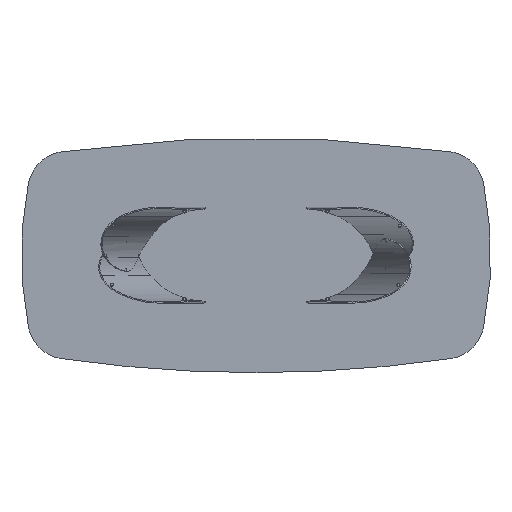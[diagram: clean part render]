
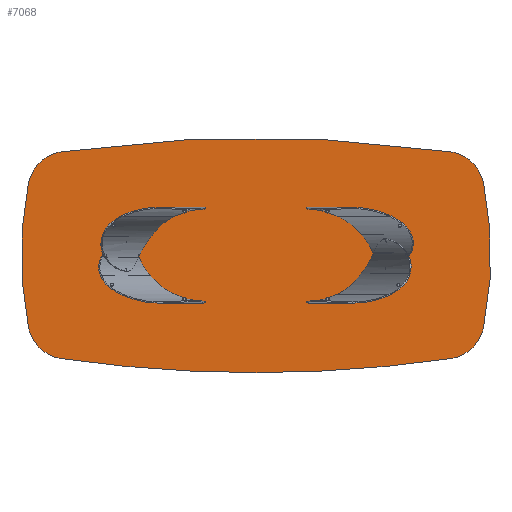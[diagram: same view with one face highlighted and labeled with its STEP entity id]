
A CAD part, front view. The second image highlights one B-rep face of the part: STEP entity #7068.
In plain terms, the highlighted planar face has unit normal (0, -1, 0).
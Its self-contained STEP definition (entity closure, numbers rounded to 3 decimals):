
#276 = DIRECTION ( 'NONE',  ( 0., 0., 1. ) ) ;
#413 = AXIS2_PLACEMENT_3D ( 'NONE', #11494, #2934, #11430 ) ;
#491 = CARTESIAN_POINT ( 'NONE',  ( -322.5, 0., 3175. ) ) ;
#507 = VERTEX_POINT ( 'NONE', #6348 ) ;
#796 = CARTESIAN_POINT ( 'NONE',  ( 0., 0., -6350. ) ) ;
#1232 = VERTEX_POINT ( 'NONE', #8676 ) ;
#1235 = EDGE_CURVE ( 'NONE', #9462, #9044, #7587, .T. ) ;
#1349 = ORIENTED_EDGE ( 'NONE', *, *, #4606, .T. ) ;
#1817 = CARTESIAN_POINT ( 'NONE',  ( 645., 0., 0. ) ) ;
#1875 = DIRECTION ( 'NONE',  ( 0., -1., 0. ) ) ;
#1933 = EDGE_CURVE ( 'NONE', #6099, #9957, #6519, .T. ) ;
#1934 = VERTEX_POINT ( 'NONE', #3224 ) ;
#1956 = AXIS2_PLACEMENT_3D ( 'NONE', #10200, #3587, #10320 ) ;
#1985 = DIRECTION ( 'NONE',  ( 0., 0., 1. ) ) ;
#2034 = CIRCLE ( 'NONE', #12022, 200. ) ;
#2119 = CARTESIAN_POINT ( 'NONE',  ( -1162.39, 0., -370.629 ) ) ;
#2484 = CARTESIAN_POINT ( 'NONE',  ( -645., 0., 0. ) ) ;
#2792 = DIRECTION ( 'NONE',  ( 0., 1., 0. ) ) ;
#2803 = AXIS2_PLACEMENT_3D ( 'NONE', #491, #11815, #11876 ) ;
#2934 = DIRECTION ( 'NONE',  ( 0., -1., 0. ) ) ;
#2962 = ORIENTED_EDGE ( 'NONE', *, *, #3552, .F. ) ;
#2981 = CARTESIAN_POINT ( 'NONE',  ( 995.103, 0., -528.391 ) ) ;
#3007 = CARTESIAN_POINT ( 'NONE',  ( -966.467, 0., 330.452 ) ) ;
#3042 = CARTESIAN_POINT ( 'NONE',  ( 0., 0., 6350. ) ) ;
#3224 = CARTESIAN_POINT ( 'NONE',  ( -995.103, 0., 528.391 ) ) ;
#3279 = CARTESIAN_POINT ( 'NONE',  ( 966.467, 0., -330.452 ) ) ;
#3376 = FACE_OUTER_BOUND ( 'NONE', #6919, .T. ) ;
#3549 = EDGE_CURVE ( 'NONE', #9957, #9044, #9260, .T. ) ;
#3552 = EDGE_CURVE ( 'NONE', #9462, #8483, #11460, .T. ) ;
#3587 = DIRECTION ( 'NONE',  ( 0., -1., 0. ) ) ;
#4048 = ORIENTED_EDGE ( 'NONE', *, *, #6109, .F. ) ;
#4240 = EDGE_CURVE ( 'NONE', #507, #8027, #5352, .T. ) ;
#4606 = EDGE_CURVE ( 'NONE', #507, #1232, #7345, .T. ) ;
#4742 = DIRECTION ( 'NONE',  ( 0., 0., 1. ) ) ;
#5161 = CIRCLE ( 'NONE', #6362, 6950. ) ;
#5352 = CIRCLE ( 'NONE', #10321, 1845. ) ;
#5477 = AXIS2_PLACEMENT_3D ( 'NONE', #7492, #8488, #9435 ) ;
#5917 = ORIENTED_EDGE ( 'NONE', *, *, #4240, .F. ) ;
#6065 = PLANE ( 'NONE',  #2803 ) ;
#6099 = VERTEX_POINT ( 'NONE', #2981 ) ;
#6109 = EDGE_CURVE ( 'NONE', #1934, #1232, #5161, .T. ) ;
#6330 = AXIS2_PLACEMENT_3D ( 'NONE', #3279, #9535, #1985 ) ;
#6348 = CARTESIAN_POINT ( 'NONE',  ( 1162.39, 0., 370.629 ) ) ;
#6362 = AXIS2_PLACEMENT_3D ( 'NONE', #796, #2792, #9468 ) ;
#6519 = CIRCLE ( 'NONE', #8110, 6950. ) ;
#6694 = DIRECTION ( 'NONE',  ( 0., 0., 1. ) ) ;
#6919 = EDGE_LOOP ( 'NONE', ( #4048, #7702, #2962, #11138, #8053, #9800, #10362, #5917, #1349 ) ) ;
#7068 = ADVANCED_FACE ( 'NONE', ( #3376 ), #6065, .F. ) ;
#7320 = CIRCLE ( 'NONE', #6330, 200. ) ;
#7345 = CIRCLE ( 'NONE', #1956, 200. ) ;
#7431 = EDGE_CURVE ( 'NONE', #6099, #8027, #7320, .T. ) ;
#7492 = CARTESIAN_POINT ( 'NONE',  ( 0., 0., 6350. ) ) ;
#7587 = CIRCLE ( 'NONE', #413, 200. ) ;
#7687 = CARTESIAN_POINT ( 'NONE',  ( -995.103, 0., -528.391 ) ) ;
#7702 = ORIENTED_EDGE ( 'NONE', *, *, #8893, .T. ) ;
#8027 = VERTEX_POINT ( 'NONE', #12199 ) ;
#8053 = ORIENTED_EDGE ( 'NONE', *, *, #3549, .F. ) ;
#8110 = AXIS2_PLACEMENT_3D ( 'NONE', #3042, #11791, #276 ) ;
#8483 = VERTEX_POINT ( 'NONE', #11008 ) ;
#8488 = DIRECTION ( 'NONE',  ( 0., 1., 0. ) ) ;
#8676 = CARTESIAN_POINT ( 'NONE',  ( 995.103, 0., 528.391 ) ) ;
#8893 = EDGE_CURVE ( 'NONE', #1934, #8483, #2034, .T. ) ;
#8904 = CARTESIAN_POINT ( 'NONE',  ( 0., 0., -600. ) ) ;
#9044 = VERTEX_POINT ( 'NONE', #7687 ) ;
#9260 = CIRCLE ( 'NONE', #5477, 6950. ) ;
#9404 = DIRECTION ( 'NONE',  ( 0., 1., 0. ) ) ;
#9435 = DIRECTION ( 'NONE',  ( 0., 0., 1. ) ) ;
#9458 = DIRECTION ( 'NONE',  ( 0., 0., 1. ) ) ;
#9462 = VERTEX_POINT ( 'NONE', #2119 ) ;
#9468 = DIRECTION ( 'NONE',  ( 0., 0., 1. ) ) ;
#9535 = DIRECTION ( 'NONE',  ( 0., -1., 0. ) ) ;
#9800 = ORIENTED_EDGE ( 'NONE', *, *, #1933, .F. ) ;
#9957 = VERTEX_POINT ( 'NONE', #8904 ) ;
#10200 = CARTESIAN_POINT ( 'NONE',  ( 966.467, 0., 330.452 ) ) ;
#10320 = DIRECTION ( 'NONE',  ( 0., 0., 1. ) ) ;
#10321 = AXIS2_PLACEMENT_3D ( 'NONE', #2484, #9404, #9458 ) ;
#10362 = ORIENTED_EDGE ( 'NONE', *, *, #7431, .T. ) ;
#10367 = DIRECTION ( 'NONE',  ( 0., 1., 0. ) ) ;
#10863 = AXIS2_PLACEMENT_3D ( 'NONE', #1817, #10367, #6694 ) ;
#11008 = CARTESIAN_POINT ( 'NONE',  ( -1162.39, 0., 370.629 ) ) ;
#11138 = ORIENTED_EDGE ( 'NONE', *, *, #1235, .T. ) ;
#11430 = DIRECTION ( 'NONE',  ( 0., 0., 1. ) ) ;
#11460 = CIRCLE ( 'NONE', #10863, 1845. ) ;
#11494 = CARTESIAN_POINT ( 'NONE',  ( -966.467, 0., -330.452 ) ) ;
#11791 = DIRECTION ( 'NONE',  ( 0., 1., 0. ) ) ;
#11815 = DIRECTION ( 'NONE',  ( 0., 1., 0. ) ) ;
#11876 = DIRECTION ( 'NONE',  ( 0., 0., 1. ) ) ;
#12022 = AXIS2_PLACEMENT_3D ( 'NONE', #3007, #1875, #4742 ) ;
#12199 = CARTESIAN_POINT ( 'NONE',  ( 1162.39, 0., -370.629 ) ) ;
